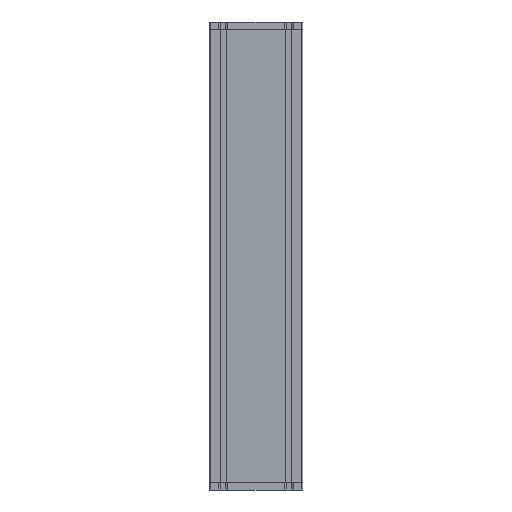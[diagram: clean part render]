
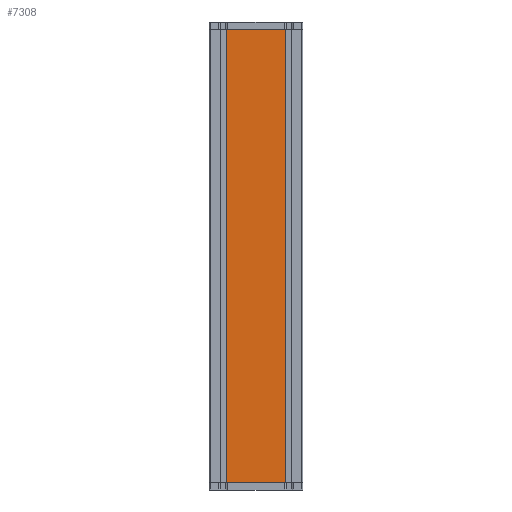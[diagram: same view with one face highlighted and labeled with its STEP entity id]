
A CAD part, front view. The second image highlights one B-rep face of the part: STEP entity #7308.
In plain terms, the highlighted planar face has unit normal (0, -1, 0).
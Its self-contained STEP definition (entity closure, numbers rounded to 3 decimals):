
#16 = CARTESIAN_POINT ( 'NONE',  ( 64., -50., 485. ) ) ;
#397 = FACE_OUTER_BOUND ( 'NONE', #6231, .T. ) ;
#827 = DIRECTION ( 'NONE',  ( 0., 0., -1. ) ) ;
#1237 = VECTOR ( 'NONE', #1602, 1000. ) ;
#1436 = VECTOR ( 'NONE', #7650, 1000. ) ;
#1602 = DIRECTION ( 'NONE',  ( 1., 0., 0. ) ) ;
#1757 = AXIS2_PLACEMENT_3D ( 'NONE', #5624, #3941, #5565 ) ;
#2288 = CARTESIAN_POINT ( 'NONE',  ( -64., -50., -485. ) ) ;
#3218 = ORIENTED_EDGE ( 'NONE', *, *, #3781, .F. ) ;
#3290 = DIRECTION ( 'NONE',  ( 0., 0., -1. ) ) ;
#3781 = EDGE_CURVE ( 'NONE', #8925, #7131, #5853, .T. ) ;
#3941 = DIRECTION ( 'NONE',  ( 0., 1., 0. ) ) ;
#4238 = EDGE_CURVE ( 'NONE', #9544, #4781, #10285, .T. ) ;
#4781 = VERTEX_POINT ( 'NONE', #7414 ) ;
#4921 = VECTOR ( 'NONE', #827, 1000. ) ;
#5565 = DIRECTION ( 'NONE',  ( -1., 0., 0. ) ) ;
#5624 = CARTESIAN_POINT ( 'NONE',  ( -64., -50., 485. ) ) ;
#5853 = LINE ( 'NONE', #7422, #1436 ) ;
#6010 = ORIENTED_EDGE ( 'NONE', *, *, #6594, .F. ) ;
#6231 = EDGE_LOOP ( 'NONE', ( #8627, #6010, #3218, #9512 ) ) ;
#6594 = EDGE_CURVE ( 'NONE', #7131, #4781, #10850, .T. ) ;
#7131 = VERTEX_POINT ( 'NONE', #16 ) ;
#7308 = ADVANCED_FACE ( 'NONE', ( #397 ), #9997, .F. ) ;
#7414 = CARTESIAN_POINT ( 'NONE',  ( 64., -50., -485. ) ) ;
#7422 = CARTESIAN_POINT ( 'NONE',  ( -64., -50., 485. ) ) ;
#7569 = LINE ( 'NONE', #9313, #4921 ) ;
#7604 = CARTESIAN_POINT ( 'NONE',  ( -64., -50., 485. ) ) ;
#7650 = DIRECTION ( 'NONE',  ( 1., 0., 0. ) ) ;
#8571 = EDGE_CURVE ( 'NONE', #8925, #9544, #7569, .T. ) ;
#8627 = ORIENTED_EDGE ( 'NONE', *, *, #4238, .T. ) ;
#8900 = VECTOR ( 'NONE', #3290, 1000. ) ;
#8925 = VERTEX_POINT ( 'NONE', #7604 ) ;
#9294 = CARTESIAN_POINT ( 'NONE',  ( -64., -50., -485. ) ) ;
#9313 = CARTESIAN_POINT ( 'NONE',  ( -64., -50., 485. ) ) ;
#9512 = ORIENTED_EDGE ( 'NONE', *, *, #8571, .T. ) ;
#9544 = VERTEX_POINT ( 'NONE', #2288 ) ;
#9997 = PLANE ( 'NONE',  #1757 ) ;
#10285 = LINE ( 'NONE', #9294, #1237 ) ;
#10850 = LINE ( 'NONE', #10955, #8900 ) ;
#10955 = CARTESIAN_POINT ( 'NONE',  ( 64., -50., 485. ) ) ;
